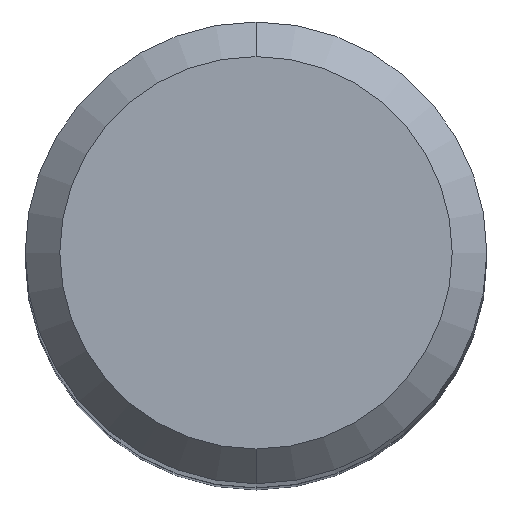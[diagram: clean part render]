
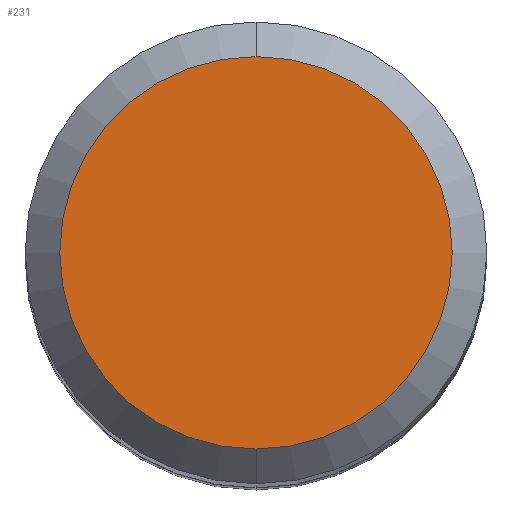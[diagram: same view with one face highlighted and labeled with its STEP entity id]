
A CAD part, top view. The second image highlights one B-rep face of the part: STEP entity #231.
In plain terms, the highlighted free-form (B-spline) face has degree [1, 1] with [2, 2] control points.
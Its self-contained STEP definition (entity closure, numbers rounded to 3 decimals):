
#38=CARTESIAN_POINT('',(0.,0.,0.));
#39=DIRECTION('',(0.,0.,1.));
#40=DIRECTION('',(0.,1.,0.));
#41=AXIS2_PLACEMENT_3D('',#38,#39,#40);
#43=CARTESIAN_POINT('',(0.,0.,0.));
#44=DIRECTION('',(0.,0.,-1.));
#45=DIRECTION('',(0.,1.,0.));
#46=AXIS2_PLACEMENT_3D('',#43,#44,#45);
#138=CARTESIAN_POINT('',(0.,3.4,0.));
#139=VERTEX_POINT('',#138);
#140=CARTESIAN_POINT('',(0.,-3.4,0.));
#141=VERTEX_POINT('',#140);
#222=CARTESIAN_POINT('',(3.536,3.536,0.));
#223=CARTESIAN_POINT('',(-3.536,3.536,0.));
#224=CARTESIAN_POINT('',(3.536,-3.536,0.));
#225=CARTESIAN_POINT('',(-3.536,-3.536,0.));
#226=B_SPLINE_SURFACE_WITH_KNOTS('',1,1,((#222,#223),(#224,#225)),.UNSPECIFIED.,
.F.,.F.,.F.,(2,2),(2,2),(-3.536,3.536),(-3.536,3.536),.UNSPECIFIED.);
#227=ORIENTED_EDGE('',*,*,#207,.F.);
#228=ORIENTED_EDGE('',*,*,#175,.T.);
#229=EDGE_LOOP('',(#227,#228));
#230=FACE_OUTER_BOUND('',#229,.F.);
#42=CIRCLE('',#41,3.4);
#47=CIRCLE('',#46,3.4);
#175=EDGE_CURVE('',#139,#141,#47,.T.);
#207=EDGE_CURVE('',#139,#141,#42,.T.);
#231=ADVANCED_FACE('',(#230),#226,.F.);
